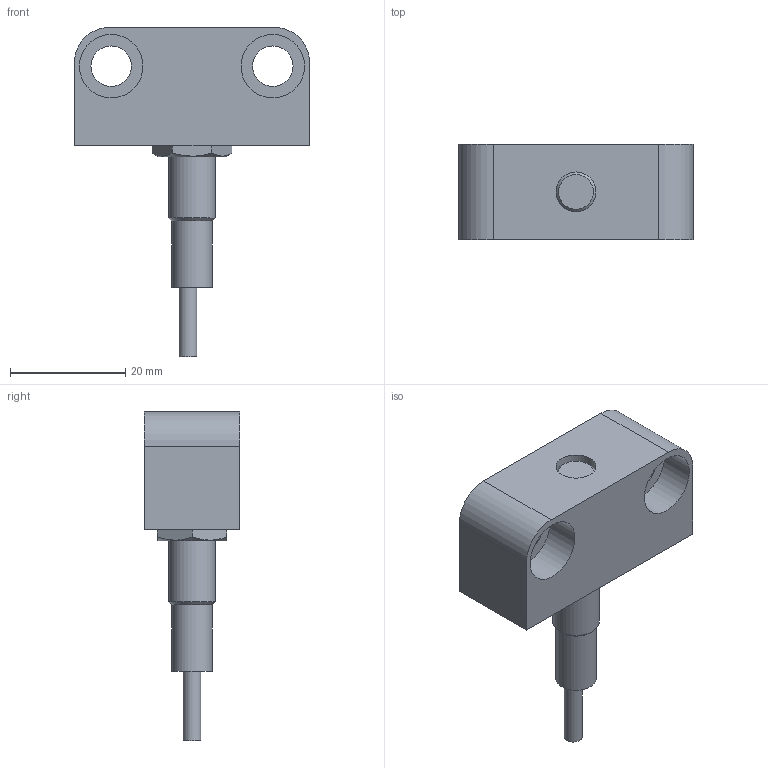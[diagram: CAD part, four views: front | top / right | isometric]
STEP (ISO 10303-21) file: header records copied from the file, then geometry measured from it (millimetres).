
FILE_DESCRIPTION(/* description */ (''),/* implementation_level */ '2;1');
FILE_NAME(/* name */ 'C:\Vault_local\Designs\Stock\3D pour clients\2D3D 600\2D3D 608 B.stp',/* time_stamp */ '2019-10-16T14:57:34+02:00',/* author */ ('Jean STUDER reponsable méthode & industrialisation +33 (0)4 77 53 90 27 jstuder@celduc.com'),/* organization */ ('Celduc® r e l a i s 5, rue Ampère, BP 30004 42290 SORBIERS - France Fax : +33 (0)4 77 53 85 51 N° siret 353 310 519 00015 ISO 9001 N° QUAL/1993/1106b www.celduc.com'),/* preprocessor_version */ 'ST-DEVELOPER v17',/* originating_system */ 'Autodesk Inventor 2018',/* authorisation */ '');
FILE_SCHEMA (('AUTOMOTIVE_DESIGN { 1 0 10303 214 3 1 1 }'));
Length unit declared in the file: millimetre
Products named in the file (4): PTI 7xxxx; PTI 7xxxx_1; ISO 4035 - M8; support PTI60022
Assembly tree (4 placements, depth 2):
  PTI 7xxxx
    PTI 7xxxx_1
    ISO 4035 - M8  x2
    support PTI60022
Bounding box: 40.7 x 16.5 x 57 mm (x, y, z)
Volume: 13564.1 mm3; surface area: 6716.3 mm2
Topology: 4 solids, 4 shells, 49 faces, 115 edges, 77 vertices
Faces by surface type: plane 27, cylinder 12, cone 10
Full cylindrical faces by diameter (mm): 3.1 x1, 6.647 x2, 6.917 x1, 7 x3, 8 x1, 11 x2
Entity records: 1206 total; most frequent: CARTESIAN_POINT 207, DIRECTION 195, ORIENTED_EDGE 166, EDGE_CURVE 83, AXIS2_PLACEMENT_3D 80, VERTEX_POINT 56, EDGE_LOOP 47, FACE_OUTER_BOUND 36
